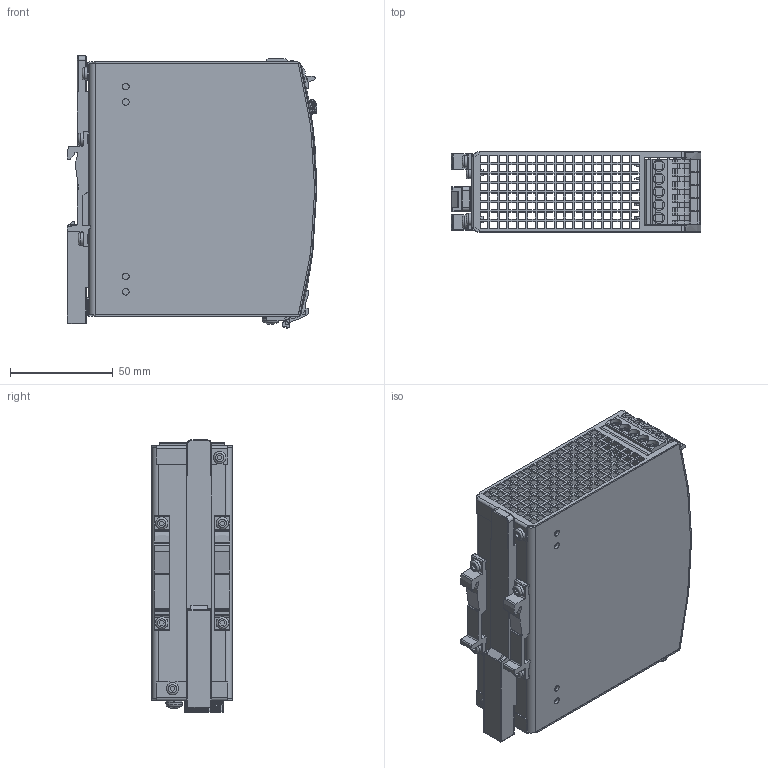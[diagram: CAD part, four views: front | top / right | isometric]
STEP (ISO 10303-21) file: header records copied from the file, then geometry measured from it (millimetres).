
FILE_DESCRIPTION(/* description */ ('HOUSING BODY','CAx-IF Rec.Pracs.---Representation and Presentation of Product Manufacturing Information (PMI)---3.8---2014-02-18'),/* implementation_level */ '2;1');
FILE_NAME(/* name */ 'L:\MKT-GER\Neue Webdokumente\Daten von KO\CP10.241-R1 (410.11)\md3_cp10_241-r1.stp',/* time_stamp */ '2017-08-22T11:57:40+02:00',/* author */ ('rahns'),/* organization */ (''),/* preprocessor_version */ 'ST-DEVELOPER v16.1',/* originating_system */ 'Autodesk Inventor 2016',/* authorisation */ '');
FILE_SCHEMA (('AP242_MANAGED_MODEL_BASED_3D_ENGINEERING_MIM_LF { 1 0 10303 442 1 1 4 }'));
Products named in the file (14): HOUSING BODY 410.01; HOUSING COVER 410.06; FRONTFOIL 410.11; MKT_SLIDER; MKT_SCREW 3x6; MKT_T HOLDER; MKT_SCREW 4x8; MKT_WASHER 4; MKT_LP2SW-R6; MKT_LED GN; MKT_POTI COVER; MKT_LP3BK-DC; MKT_LP5BK-DC; 410.11
Assembly tree (19 placements, depth 2):
  410.11
    HOUSING BODY 410.01
    HOUSING COVER 410.06
    FRONTFOIL 410.11
    MKT_SLIDER
    MKT_SCREW 3x6  x6
    MKT_T HOLDER  x2
    MKT_SCREW 4x8
    MKT_WASHER 4
    MKT_LP2SW-R6
    MKT_LED GN
    MKT_POTI COVER
    MKT_LP3BK-DC
    MKT_LP5BK-DC
Bounding box: 121.7 x 39 x 132.54 mm (x, y, z)
Volume: 83867.2 mm3; surface area: 109101.9 mm2
Topology: 20 solids, 60 shells, 3586 faces, 10082 edges, 6689 vertices
Faces by surface type: plane 2612, cylinder 589, bspline 226, torus 79, cone 51, sphere 29
Full cylindrical faces by diameter (mm): 0.3 x5, 1.5 x3, 2.2 x3, 2.45 x2, 2.7 x1, 3 x6, 3.1 x4, 3.2 x5, 3.5 x1, 3.621 x1, 4 x1, 4.355 x1, 4.5 x1, 4.6 x1, 5.5 x5, 6 x6
Entity records: 118046 total; most frequent: CARTESIAN_POINT 27290, ORIENTED_EDGE 19280, DIRECTION 17138, EDGE_CURVE 9640, LINE 7420, VECTOR 7420, VERTEX_POINT 6418, AXIS2_PLACEMENT_3D 4859
